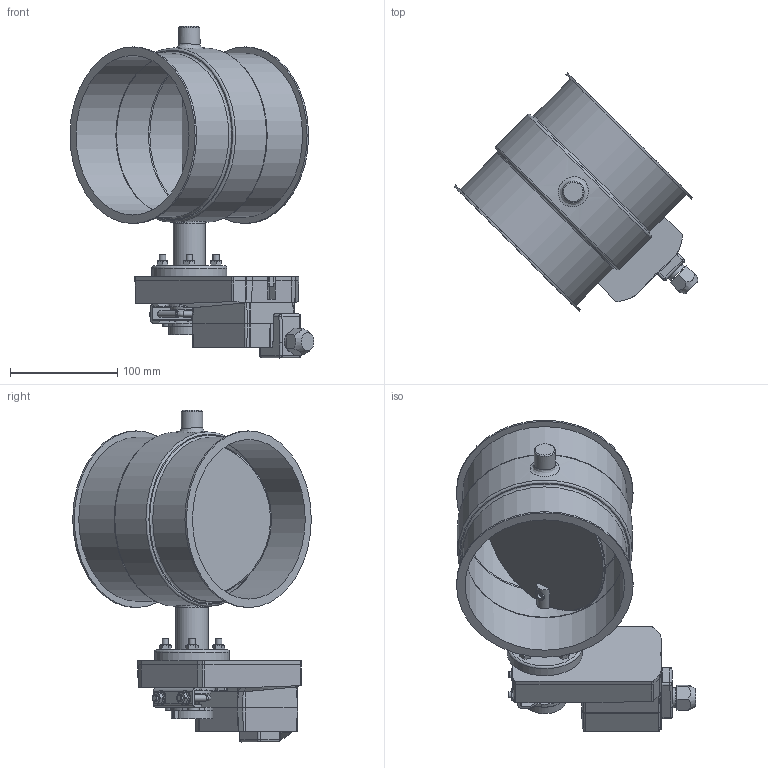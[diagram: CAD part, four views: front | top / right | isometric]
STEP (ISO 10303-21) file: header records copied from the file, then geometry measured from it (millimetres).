
FILE_DESCRIPTION((''),'2;1');
FILE_NAME('U:\Wolfgang\Marcel-3D\fertig\Kapitel 8\1521214.stp','2011-05-03T15:02:17',('TK1'),(''),'Autodesk Inventor 2010','Autodesk Inventor 2010','');
FILE_SCHEMA(('AUTOMOTIVE_DESIGN { 1 0 10303 214 1 1 1 1 }'));
Length unit declared in the file: millimetre
Products named in the file (11): 1521214; Bolzen D15; Scheibe150b; DIN 6912 M6 x 16; 1521210-1; SM24A-Antrieb; BuchseD15 70-50; Distanzstück S; SM24A--A_standard_terminal_1cable; DIN 7991 M6x25; DIN 555 - ersetzt durch DIN EN 24034 M6
Assembly tree (18 placements, depth 3):
  1521214
    Bolzen D15  x2
    Scheibe150b
    DIN 6912 M6 x 16  x2
    1521210-1
    SM24A-Antrieb
      BuchseD15 70-50
      Distanzstück S
      SM24A--A_standard_terminal_1cable
      DIN 7991 M6x25  x4
      DIN 555 - ersetzt durch DIN EN 24034 M6  x4
Bounding box: 227.78 x 222.73 x 310 mm (x, y, z)
Volume: 896352.6 mm3; surface area: 359324.7 mm2
Topology: 20 solids, 20 shells, 728 faces, 1799 edges, 1150 vertices
Faces by surface type: plane 381, cylinder 187, bspline 90, cone 38, torus 24, sphere 8
Full cylindrical faces by diameter (mm): 3 x2, 3.6 x2, 4.2 x4, 4.773 x4, 4.813 x4, 5.1 x1, 5.25 x4, 6 x14, 7 x4, 9.742 x1, 10 x4, 10.083 x1, 12 x4, 14 x2, 15 x6, 15.5 x1, 18.5 x1, 20 x1, 24 x1, 25.194 x1, 26 x2, 30 x2, 30.042 x1, 35 x2, 70 x1, 149 x3, 150 x1, 153 x2, 158 x1, 159 x1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
Entity records: 20435 total; most frequent: CARTESIAN_POINT 5539, ORIENTED_EDGE 2868, DIRECTION 2784, EDGE_CURVE 1434, AXIS2_PLACEMENT_3D 1002, VERTEX_POINT 983, EDGE_LOOP 819, VECTOR 780
